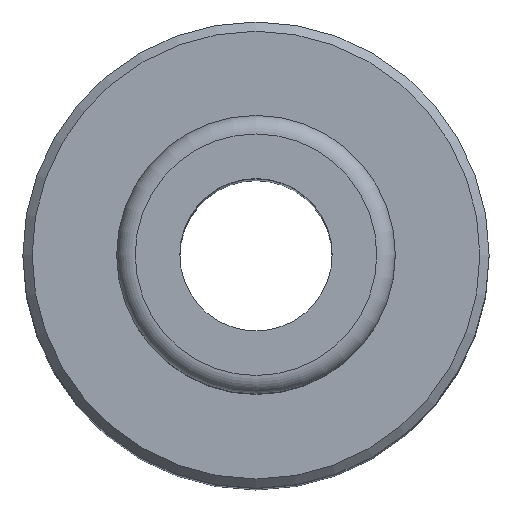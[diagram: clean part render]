
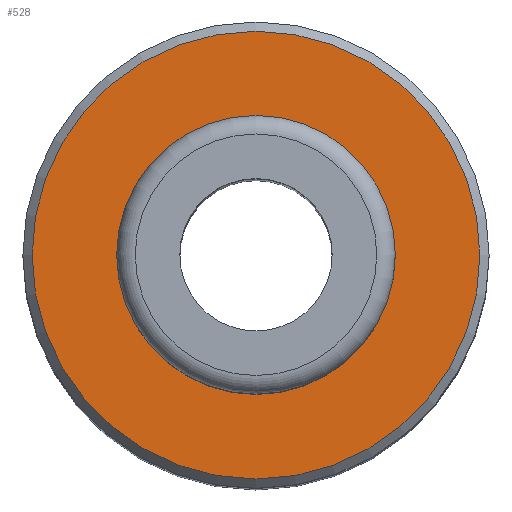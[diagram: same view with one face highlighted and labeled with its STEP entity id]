
A CAD part, top view. The second image highlights one B-rep face of the part: STEP entity #528.
In plain terms, the highlighted planar face has unit normal (0, 0, 1).
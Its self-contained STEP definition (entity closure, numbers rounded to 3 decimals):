
#439 = EDGE_CURVE('',#440,#440,#442,.T.);
#440 = VERTEX_POINT('',#441);
#441 = CARTESIAN_POINT('',(8.2,0.,104.));
#442 = CIRCLE('',#443,8.2);
#443 = AXIS2_PLACEMENT_3D('',#444,#445,#446);
#444 = CARTESIAN_POINT('',(0.,0.,104.));
#445 = DIRECTION('',(0.,0.,1.));
#446 = DIRECTION('',(1.,0.,0.));
#528 = ADVANCED_FACE('',(#529,#540),#543,.T.);
#529 = FACE_BOUND('',#530,.T.);
#530 = EDGE_LOOP('',(#531));
#531 = ORIENTED_EDGE('',*,*,#532,.T.);
#532 = EDGE_CURVE('',#533,#533,#535,.T.);
#533 = VERTEX_POINT('',#534);
#534 = CARTESIAN_POINT('',(24.1,0.,104.));
#535 = CIRCLE('',#536,24.1);
#536 = AXIS2_PLACEMENT_3D('',#537,#538,#539);
#537 = CARTESIAN_POINT('',(0.,0.,104.));
#538 = DIRECTION('',(0.,0.,1.));
#539 = DIRECTION('',(1.,0.,0.));
#540 = FACE_BOUND('',#541,.T.);
#541 = EDGE_LOOP('',(#542));
#542 = ORIENTED_EDGE('',*,*,#439,.F.);
#543 = PLANE('',#544);
#544 = AXIS2_PLACEMENT_3D('',#545,#546,#547);
#545 = CARTESIAN_POINT('',(0.,0.,104.));
#546 = DIRECTION('',(0.,0.,1.));
#547 = DIRECTION('',(1.,0.,0.));
